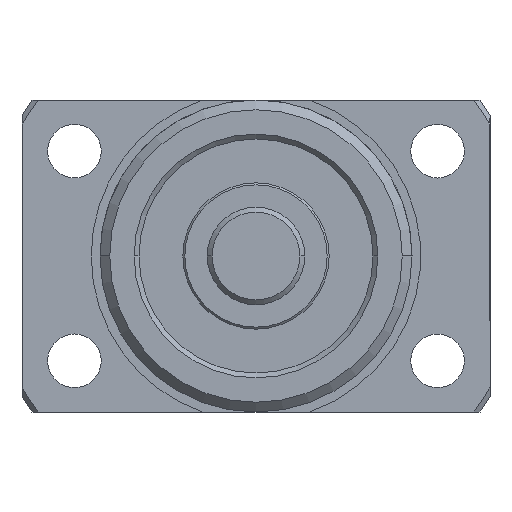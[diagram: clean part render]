
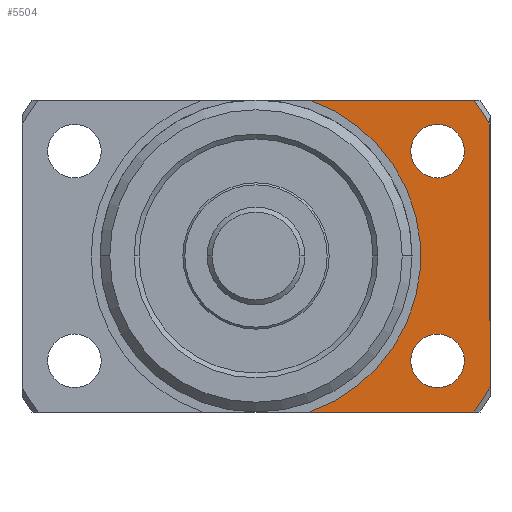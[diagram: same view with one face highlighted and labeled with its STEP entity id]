
A CAD part, left-side view. The second image highlights one B-rep face of the part: STEP entity #5504.
In plain terms, the highlighted planar face has unit normal (-1, 0, 0).
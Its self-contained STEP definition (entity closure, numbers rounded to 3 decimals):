
#126 = CARTESIAN_POINT ( 'NONE',  ( -10., -18.62, -10.75 ) ) ;
#127 = DIRECTION ( 'NONE',  ( -1., 0., 0. ) ) ;
#128 = DIRECTION ( 'NONE',  ( 0., -1., 0. ) ) ;
#162 = CARTESIAN_POINT ( 'NONE',  ( -10., -18.62, 10.75 ) ) ;
#163 = DIRECTION ( 'NONE',  ( -1., 0., 0. ) ) ;
#165 = DIRECTION ( 'NONE',  ( 0., -1., 0. ) ) ;
#187 = EDGE_LOOP ( 'NONE', ( #3798, #3797 ) ) ;
#189 = EDGE_LOOP ( 'NONE', ( #3796, #3795, #3794, #3793, #3792, #3791 ) ) ;
#218 = EDGE_LOOP ( 'NONE', ( #3790, #3789 ) ) ;
#396 = EDGE_CURVE ( 'NONE', #3975, #4001, #5672, .T. ) ;
#405 = EDGE_CURVE ( 'NONE', #3510, #3459, #5683, .T. ) ;
#406 = EDGE_CURVE ( 'NONE', #3451, #3495, #5686, .T. ) ;
#407 = EDGE_CURVE ( 'NONE', #3475, #3495, #5688, .T. ) ;
#408 = EDGE_CURVE ( 'NONE', #3475, #3975, #5687, .T. ) ;
#409 = EDGE_CURVE ( 'NONE', #4001, #3483, #5691, .T. ) ;
#410 = EDGE_CURVE ( 'NONE', #3451, #3483, #5693, .T. ) ;
#411 = EDGE_CURVE ( 'NONE', #3485, #3492, #5690, .T. ) ;
#501 = CARTESIAN_POINT ( 'NONE',  ( -10., -18.62, 13.5 ) ) ;
#510 = CARTESIAN_POINT ( 'NONE',  ( -10., -24., 13.426 ) ) ;
#515 = CARTESIAN_POINT ( 'NONE',  ( -10., -18.62, -8. ) ) ;
#516 = CARTESIAN_POINT ( 'NONE',  ( -10., -22.366, -16. ) ) ;
#521 = CARTESIAN_POINT ( 'NONE',  ( -10., -22.366, 16. ) ) ;
#527 = CARTESIAN_POINT ( 'NONE',  ( -10., -18.62, 8. ) ) ;
#532 = CARTESIAN_POINT ( 'NONE',  ( -10., -24., -13.426 ) ) ;
#552 = CARTESIAN_POINT ( 'NONE',  ( -10., -18.62, -13.5 ) ) ;
#1376 = DIRECTION ( 'NONE',  ( -1., 0., 0. ) ) ;
#1378 = CARTESIAN_POINT ( 'NONE',  ( -10., 16.9, 0. ) ) ;
#1380 = PLANE ( 'NONE',  #2425 ) ;
#1381 = DIRECTION ( 'NONE',  ( 0., -1., 0. ) ) ;
#2321 = AXIS2_PLACEMENT_3D ( 'NONE', #126, #127, #128 ) ;
#2325 = AXIS2_PLACEMENT_3D ( 'NONE', #162, #163, #165 ) ;
#2425 = AXIS2_PLACEMENT_3D ( 'NONE', #1378, #1376, #1381 ) ;
#2724 = FACE_BOUND ( 'NONE', #218, .T. ) ;
#2735 = FACE_OUTER_BOUND ( 'NONE', #189, .T. ) ;
#2740 = FACE_BOUND ( 'NONE', #187, .T. ) ;
#3451 = VERTEX_POINT ( 'NONE', #532 ) ;
#3459 = VERTEX_POINT ( 'NONE', #527 ) ;
#3475 = VERTEX_POINT ( 'NONE', #521 ) ;
#3483 = VERTEX_POINT ( 'NONE', #516 ) ;
#3485 = VERTEX_POINT ( 'NONE', #515 ) ;
#3492 = VERTEX_POINT ( 'NONE', #552 ) ;
#3495 = VERTEX_POINT ( 'NONE', #510 ) ;
#3510 = VERTEX_POINT ( 'NONE', #501 ) ;
#3789 = ORIENTED_EDGE ( 'NONE', *, *, #411, .F. ) ;
#3790 = ORIENTED_EDGE ( 'NONE', *, *, #4591, .F. ) ;
#3791 = ORIENTED_EDGE ( 'NONE', *, *, #410, .F. ) ;
#3792 = ORIENTED_EDGE ( 'NONE', *, *, #409, .T. ) ;
#3793 = ORIENTED_EDGE ( 'NONE', *, *, #396, .T. ) ;
#3794 = ORIENTED_EDGE ( 'NONE', *, *, #408, .T. ) ;
#3795 = ORIENTED_EDGE ( 'NONE', *, *, #407, .F. ) ;
#3796 = ORIENTED_EDGE ( 'NONE', *, *, #406, .T. ) ;
#3797 = ORIENTED_EDGE ( 'NONE', *, *, #405, .F. ) ;
#3798 = ORIENTED_EDGE ( 'NONE', *, *, #4599, .F. ) ;
#3975 = VERTEX_POINT ( 'NONE', #5092 ) ;
#4001 = VERTEX_POINT ( 'NONE', #5139 ) ;
#4422 = DIRECTION ( 'NONE',  ( 0., -1., 0. ) ) ;
#4423 = DIRECTION ( 'NONE',  ( -1., 0., 0. ) ) ;
#4424 = CARTESIAN_POINT ( 'NONE',  ( -10., -18.62, -10.75 ) ) ;
#4425 = DIRECTION ( 'NONE',  ( 0., 1., 0. ) ) ;
#4426 = DIRECTION ( 'NONE',  ( 1., 0., 0. ) ) ;
#4427 = CARTESIAN_POINT ( 'NONE',  ( -10., 0., 0. ) ) ;
#4429 = DIRECTION ( 'NONE',  ( 0., -1., 0. ) ) ;
#4430 = CARTESIAN_POINT ( 'NONE',  ( -10., 16.9, -16. ) ) ;
#4431 = DIRECTION ( 'NONE',  ( 0., 1., 0. ) ) ;
#4432 = DIRECTION ( 'NONE',  ( 1., 0., 0. ) ) ;
#4433 = CARTESIAN_POINT ( 'NONE',  ( -10., 0., 0. ) ) ;
#4434 = CARTESIAN_POINT ( 'NONE',  ( -10., 16.9, 16. ) ) ;
#4436 = DIRECTION ( 'NONE',  ( 0., -1., 0. ) ) ;
#4437 = DIRECTION ( 'NONE',  ( -1., 0., 0. ) ) ;
#4438 = CARTESIAN_POINT ( 'NONE',  ( -10., -18.62, 10.75 ) ) ;
#4439 = CARTESIAN_POINT ( 'NONE',  ( -10., -24., 0. ) ) ;
#4443 = DIRECTION ( 'NONE',  ( 0., 0., 1. ) ) ;
#4448 = DIRECTION ( 'NONE',  ( 0., 1., 0. ) ) ;
#4459 = DIRECTION ( 'NONE',  ( 0., 1., 0. ) ) ;
#4460 = DIRECTION ( 'NONE',  ( 1., 0., 0. ) ) ;
#4461 = CARTESIAN_POINT ( 'NONE',  ( -10., 0., 0. ) ) ;
#4591 = EDGE_CURVE ( 'NONE', #3492, #3485, #4930, .T. ) ;
#4599 = EDGE_CURVE ( 'NONE', #3459, #3510, #4942, .T. ) ;
#4731 = AXIS2_PLACEMENT_3D ( 'NONE', #4461, #4460, #4459 ) ;
#4736 = AXIS2_PLACEMENT_3D ( 'NONE', #4438, #4437, #4436 ) ;
#4737 = AXIS2_PLACEMENT_3D ( 'NONE', #4433, #4432, #4431 ) ;
#4738 = AXIS2_PLACEMENT_3D ( 'NONE', #4427, #4426, #4425 ) ;
#4739 = AXIS2_PLACEMENT_3D ( 'NONE', #4424, #4423, #4422 ) ;
#4930 = CIRCLE ( 'NONE', #2321, 2.75 ) ;
#4942 = CIRCLE ( 'NONE', #2325, 2.75 ) ;
#5092 = CARTESIAN_POINT ( 'NONE',  ( -10., -5.442, 16. ) ) ;
#5139 = CARTESIAN_POINT ( 'NONE',  ( -10., -5.442, -16. ) ) ;
#5504 = ADVANCED_FACE ( 'NONE', ( #2740, #2735, #2724 ), #1380, .T. ) ;
#5672 = CIRCLE ( 'NONE', #4731, 16.9 ) ;
#5683 = CIRCLE ( 'NONE', #4736, 2.75 ) ;
#5686 = LINE ( 'NONE', #4439, #5689 ) ;
#5687 = LINE ( 'NONE', #4434, #5692 ) ;
#5688 = CIRCLE ( 'NONE', #4737, 27.5 ) ;
#5689 = VECTOR ( 'NONE', #4443, 1000. ) ;
#5690 = CIRCLE ( 'NONE', #4739, 2.75 ) ;
#5691 = LINE ( 'NONE', #4430, #5694 ) ;
#5692 = VECTOR ( 'NONE', #4448, 1000. ) ;
#5693 = CIRCLE ( 'NONE', #4738, 27.5 ) ;
#5694 = VECTOR ( 'NONE', #4429, 1000. ) ;
